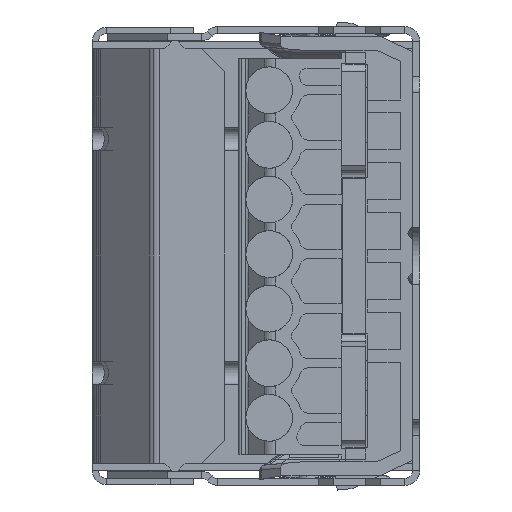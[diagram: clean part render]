
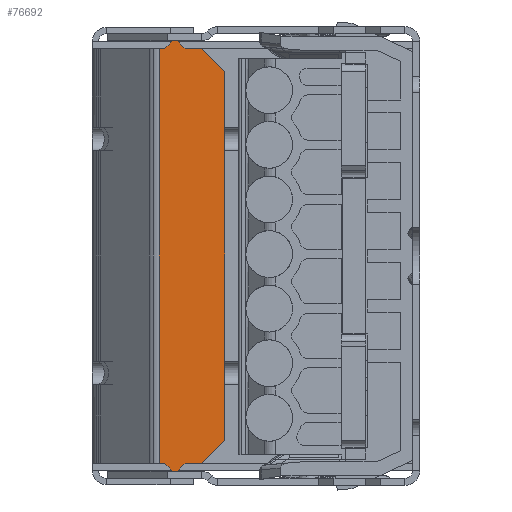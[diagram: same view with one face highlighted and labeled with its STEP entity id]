
A CAD part, left-side view. The second image highlights one B-rep face of the part: STEP entity #76692.
In plain terms, the highlighted planar face has unit normal (-1, 0, 0).
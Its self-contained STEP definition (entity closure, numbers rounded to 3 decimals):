
#106 = DIRECTION ( 'NONE',  ( 0., -1., 0. ) ) ;
#276 = VERTEX_POINT ( 'NONE', #55130 ) ;
#1246 = CARTESIAN_POINT ( 'NONE',  ( -186.499, 6.353, 13.8 ) ) ;
#1350 = EDGE_CURVE ( 'NONE', #89927, #88380, #65950, .T. ) ;
#1584 = LINE ( 'NONE', #26725, #75355 ) ;
#1659 = CARTESIAN_POINT ( 'NONE',  ( -186.499, 4.003, -13.8 ) ) ;
#5437 = ORIENTED_EDGE ( 'NONE', *, *, #85472, .T. ) ;
#7703 = ORIENTED_EDGE ( 'NONE', *, *, #8034, .T. ) ;
#8034 = EDGE_CURVE ( 'NONE', #112011, #120762, #29134, .T. ) ;
#9157 = CARTESIAN_POINT ( 'NONE',  ( -186.499, 13.313, 13.3 ) ) ;
#10075 = VECTOR ( 'NONE', #46676, 1000. ) ;
#11340 = CARTESIAN_POINT ( 'NONE',  ( -186.499, 7.208, -13.3 ) ) ;
#11467 = LINE ( 'NONE', #69920, #42507 ) ;
#11762 = EDGE_CURVE ( 'NONE', #42108, #276, #98414, .T. ) ;
#12466 = DIRECTION ( 'NONE',  ( 0., -0.707, 0.707 ) ) ;
#13431 = EDGE_CURVE ( 'NONE', #28676, #34945, #41231, .T. ) ;
#14688 = ORIENTED_EDGE ( 'NONE', *, *, #1350, .F. ) ;
#17119 = CARTESIAN_POINT ( 'NONE',  ( -186.499, 6.053, -13.8 ) ) ;
#17496 = FACE_OUTER_BOUND ( 'NONE', #42044, .T. ) ;
#17702 = DIRECTION ( 'NONE',  ( 0., -1., 0. ) ) ;
#19303 = VECTOR ( 'NONE', #44545, 1000. ) ;
#21328 = VECTOR ( 'NONE', #30823, 1000. ) ;
#24064 = VECTOR ( 'NONE', #37164, 1000. ) ;
#26338 = CARTESIAN_POINT ( 'NONE',  ( -186.499, 7.208, 13.3 ) ) ;
#26725 = CARTESIAN_POINT ( 'NONE',  ( -186.499, 5.553, -13.3 ) ) ;
#27078 = CARTESIAN_POINT ( 'NONE',  ( -186.499, 3.003, 11.8 ) ) ;
#27251 = VECTOR ( 'NONE', #67530, 1000. ) ;
#27341 = LINE ( 'NONE', #56383, #21328 ) ;
#27772 = CARTESIAN_POINT ( 'NONE',  ( -186.499, 6.853, -13.3 ) ) ;
#28676 = VERTEX_POINT ( 'NONE', #11340 ) ;
#29134 = LINE ( 'NONE', #53549, #61449 ) ;
#29291 = LINE ( 'NONE', #37972, #10075 ) ;
#29515 = VECTOR ( 'NONE', #55407, 1000. ) ;
#30158 = LINE ( 'NONE', #1659, #27251 ) ;
#30823 = DIRECTION ( 'NONE',  ( 0., -0.707, -0.707 ) ) ;
#31031 = LINE ( 'NONE', #103921, #29515 ) ;
#32005 = EDGE_CURVE ( 'NONE', #34945, #61558, #56456, .T. ) ;
#34945 = VERTEX_POINT ( 'NONE', #67094 ) ;
#35451 = CARTESIAN_POINT ( 'NONE',  ( -186.499, 4.003, 13.8 ) ) ;
#36140 = DIRECTION ( 'NONE',  ( 0., -1., 0. ) ) ;
#36183 = EDGE_CURVE ( 'NONE', #52526, #106968, #86906, .T. ) ;
#37164 = DIRECTION ( 'NONE',  ( 0., -0.707, -0.707 ) ) ;
#37972 = CARTESIAN_POINT ( 'NONE',  ( -186.499, 6.853, 13.3 ) ) ;
#40975 = EDGE_CURVE ( 'NONE', #106968, #89927, #27341, .T. ) ;
#41231 = LINE ( 'NONE', #72731, #44229 ) ;
#42044 = EDGE_LOOP ( 'NONE', ( #75733, #53212, #113165, #7703, #62188, #5437, #14688, #68298, #86524, #94074, #56569, #94869, #71083, #90379 ) ) ;
#42108 = VERTEX_POINT ( 'NONE', #17119 ) ;
#42507 = VECTOR ( 'NONE', #116044, 1000. ) ;
#44229 = VECTOR ( 'NONE', #53463, 1000. ) ;
#44525 = CARTESIAN_POINT ( 'NONE',  ( -186.499, 6.053, 13.8 ) ) ;
#44545 = DIRECTION ( 'NONE',  ( 0., -1., 0. ) ) ;
#45438 = VECTOR ( 'NONE', #12466, 1000. ) ;
#46676 = DIRECTION ( 'NONE',  ( 0., -0.707, 0.707 ) ) ;
#52526 = VERTEX_POINT ( 'NONE', #1246 ) ;
#52778 = VECTOR ( 'NONE', #17702, 1000. ) ;
#53212 = ORIENTED_EDGE ( 'NONE', *, *, #11762, .T. ) ;
#53463 = DIRECTION ( 'NONE',  ( 0., -1., 0. ) ) ;
#53549 = CARTESIAN_POINT ( 'NONE',  ( -186.499, 4.503, -13.3 ) ) ;
#55130 = CARTESIAN_POINT ( 'NONE',  ( -186.499, 5.553, -13.3 ) ) ;
#55307 = CARTESIAN_POINT ( 'NONE',  ( -186.499, 4.503, 13.3 ) ) ;
#55407 = DIRECTION ( 'NONE',  ( 0., 0., 1. ) ) ;
#56383 = CARTESIAN_POINT ( 'NONE',  ( -186.499, 6.203, 13.95 ) ) ;
#56456 = LINE ( 'NONE', #27772, #24064 ) ;
#56569 = ORIENTED_EDGE ( 'NONE', *, *, #91319, .F. ) ;
#57990 = LINE ( 'NONE', #62948, #77082 ) ;
#58346 = DIRECTION ( 'NONE',  ( 0., 0., 1. ) ) ;
#59789 = CARTESIAN_POINT ( 'NONE',  ( -186.499, 6.203, -13.95 ) ) ;
#61449 = VECTOR ( 'NONE', #109500, 1000. ) ;
#61558 = VERTEX_POINT ( 'NONE', #67136 ) ;
#62188 = ORIENTED_EDGE ( 'NONE', *, *, #84820, .T. ) ;
#62948 = CARTESIAN_POINT ( 'NONE',  ( -186.499, 7.208, 14.65 ) ) ;
#65950 = LINE ( 'NONE', #92648, #52778 ) ;
#66455 = EDGE_CURVE ( 'NONE', #42108, #61558, #30158, .T. ) ;
#67094 = CARTESIAN_POINT ( 'NONE',  ( -186.499, 6.853, -13.3 ) ) ;
#67136 = CARTESIAN_POINT ( 'NONE',  ( -186.499, 6.353, -13.8 ) ) ;
#67530 = DIRECTION ( 'NONE',  ( 0., 1., 0. ) ) ;
#68298 = ORIENTED_EDGE ( 'NONE', *, *, #40975, .F. ) ;
#69071 = VERTEX_POINT ( 'NONE', #26338 ) ;
#69920 = CARTESIAN_POINT ( 'NONE',  ( -186.499, 3.003, 11.8 ) ) ;
#71083 = ORIENTED_EDGE ( 'NONE', *, *, #13431, .T. ) ;
#71401 = AXIS2_PLACEMENT_3D ( 'NONE', #114309, #114693, #58346 ) ;
#72731 = CARTESIAN_POINT ( 'NONE',  ( -186.499, 13.313, -13.3 ) ) ;
#72781 = DIRECTION ( 'NONE',  ( 0., 0., -1. ) ) ;
#72969 = CARTESIAN_POINT ( 'NONE',  ( -186.499, 4.503, -13.3 ) ) ;
#75355 = VECTOR ( 'NONE', #36140, 1000. ) ;
#75733 = ORIENTED_EDGE ( 'NONE', *, *, #66455, .F. ) ;
#76692 = ADVANCED_FACE ( 'NONE', ( #17496 ), #95807, .T. ) ;
#77082 = VECTOR ( 'NONE', #72781, 1000. ) ;
#79193 = LINE ( 'NONE', #9157, #104289 ) ;
#82781 = EDGE_CURVE ( 'NONE', #276, #112011, #1584, .T. ) ;
#84632 = CARTESIAN_POINT ( 'NONE',  ( -186.499, 6.853, 13.3 ) ) ;
#84820 = EDGE_CURVE ( 'NONE', #120762, #86218, #31031, .T. ) ;
#85472 = EDGE_CURVE ( 'NONE', #86218, #88380, #11467, .T. ) ;
#86218 = VERTEX_POINT ( 'NONE', #27078 ) ;
#86524 = ORIENTED_EDGE ( 'NONE', *, *, #36183, .F. ) ;
#86906 = LINE ( 'NONE', #35451, #19303 ) ;
#88380 = VERTEX_POINT ( 'NONE', #55307 ) ;
#89927 = VERTEX_POINT ( 'NONE', #110456 ) ;
#90379 = ORIENTED_EDGE ( 'NONE', *, *, #32005, .T. ) ;
#91319 = EDGE_CURVE ( 'NONE', #69071, #93723, #79193, .T. ) ;
#92648 = CARTESIAN_POINT ( 'NONE',  ( -186.499, 5.553, 13.3 ) ) ;
#93723 = VERTEX_POINT ( 'NONE', #84632 ) ;
#94074 = ORIENTED_EDGE ( 'NONE', *, *, #117948, .F. ) ;
#94869 = ORIENTED_EDGE ( 'NONE', *, *, #119475, .T. ) ;
#95807 = PLANE ( 'NONE',  #71401 ) ;
#98414 = LINE ( 'NONE', #59789, #45438 ) ;
#99872 = CARTESIAN_POINT ( 'NONE',  ( -186.499, 3.003, -11.8 ) ) ;
#103921 = CARTESIAN_POINT ( 'NONE',  ( -186.499, 3.003, -11.8 ) ) ;
#104289 = VECTOR ( 'NONE', #106, 1000. ) ;
#106968 = VERTEX_POINT ( 'NONE', #44525 ) ;
#109500 = DIRECTION ( 'NONE',  ( 0., -0.707, 0.707 ) ) ;
#110456 = CARTESIAN_POINT ( 'NONE',  ( -186.499, 5.553, 13.3 ) ) ;
#112011 = VERTEX_POINT ( 'NONE', #72969 ) ;
#113165 = ORIENTED_EDGE ( 'NONE', *, *, #82781, .T. ) ;
#114309 = CARTESIAN_POINT ( 'NONE',  ( -186.499, 377.313, 14.65 ) ) ;
#114693 = DIRECTION ( 'NONE',  ( -1., 0., 0. ) ) ;
#116044 = DIRECTION ( 'NONE',  ( 0., 0.707, 0.707 ) ) ;
#117948 = EDGE_CURVE ( 'NONE', #93723, #52526, #29291, .T. ) ;
#119475 = EDGE_CURVE ( 'NONE', #69071, #28676, #57990, .T. ) ;
#120762 = VERTEX_POINT ( 'NONE', #99872 ) ;
